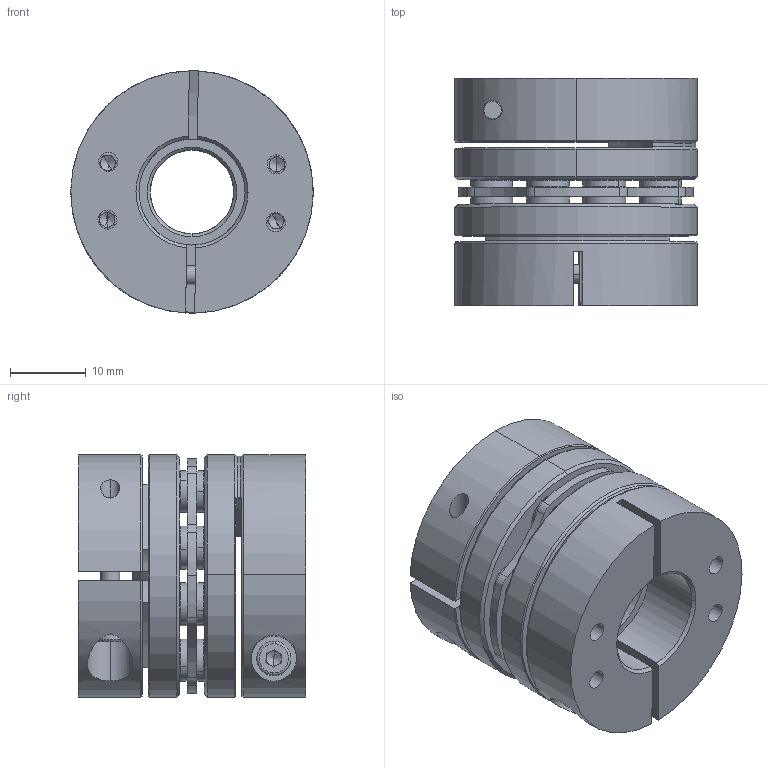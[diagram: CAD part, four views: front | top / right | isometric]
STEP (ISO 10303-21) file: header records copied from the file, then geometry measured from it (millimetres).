
FILE_DESCRIPTION (( 'STEP AP203' ), '1' );
FILE_NAME ('LDG-32-B1-11-14.STEP', '2021-10-28T05:17:03', ( '' ), ( '' ), 'SwSTEP 2.0', 'SolidWorks 2018', '' );
FILE_SCHEMA (( 'CONFIG_CONTROL_DESIGN' ));
Length unit declared in the file: millimetre
Products named in the file (2): LDG-32-B1-11-14; 錨璃5^LDG-32蚾饜芞1
Assembly tree (1 placements, depth 2):
  LDG-32-B1-11-14
    錨璃5^LDG-32蚾饜芞1
Bounding box: 32 x 30 x 32 mm (x, y, z)
Volume: 16762 mm3; surface area: 13012.2 mm2
Topology: 1 solids, 11 shells, 795 faces, 1967 edges, 1216 vertices
Faces by surface type: cylinder 301, plane 244, cone 230, torus 20
Entity records: 24191 total; most frequent: CARTESIAN_POINT 4472, DIRECTION 4465, ORIENTED_EDGE 3878, EDGE_CURVE 1939, AXIS2_PLACEMENT_3D 1819, VERTEX_POINT 1216, CIRCLE 1020, EDGE_LOOP 939
